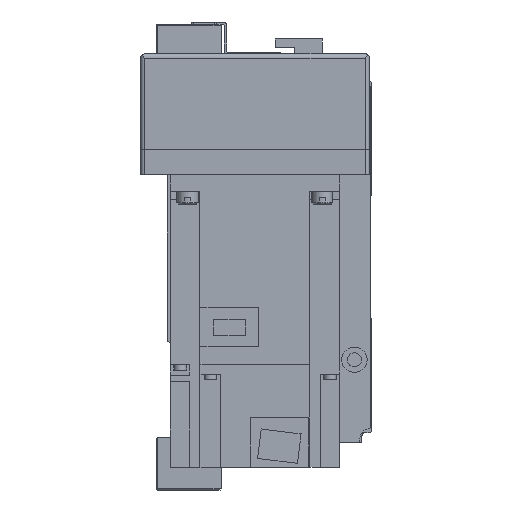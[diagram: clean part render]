
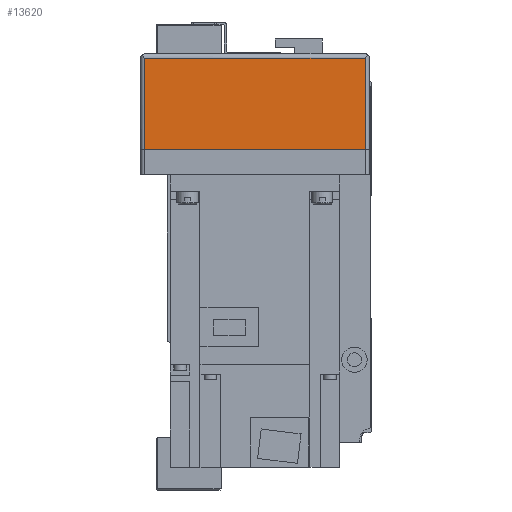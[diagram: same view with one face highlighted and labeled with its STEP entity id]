
A CAD part, left-side view. The second image highlights one B-rep face of the part: STEP entity #13620.
In plain terms, the highlighted planar face has unit normal (-1, 0, 0).
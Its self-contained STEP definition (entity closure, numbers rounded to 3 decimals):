
#2458=ORIENTED_EDGE('',*,*,#5668,.T.);
#2459=ORIENTED_EDGE('',*,*,#5596,.T.);
#2460=ORIENTED_EDGE('',*,*,#5669,.F.);
#2461=ORIENTED_EDGE('',*,*,#5608,.F.);
#5596=EDGE_CURVE('',#7350,#7353,#8782,.T.);
#5608=EDGE_CURVE('',#7360,#7362,#8787,.T.);
#5668=EDGE_CURVE('',#7360,#7350,#8829,.T.);
#5669=EDGE_CURVE('',#7362,#7353,#8830,.T.);
#7350=VERTEX_POINT('',#21263);
#7353=VERTEX_POINT('',#21269);
#7360=VERTEX_POINT('',#21292);
#7362=VERTEX_POINT('',#21295);
#8782=LINE('',#21270,#10095);
#8787=LINE('',#21294,#10100);
#8829=LINE('',#21418,#10142);
#8830=LINE('',#21419,#10143);
#10095=VECTOR('',#16999,1000.);
#10100=VECTOR('',#17026,1000.);
#10142=VECTOR('',#17146,1000.);
#10143=VECTOR('',#17147,1000.);
#11251=EDGE_LOOP('',(#2458,#2459,#2460,#2461));
#12230=FACE_BOUND('',#11251,.T.);
#13041=PLANE('',#14629);
#13620=ADVANCED_FACE('',(#12230),#13041,.T.);
#14629=AXIS2_PLACEMENT_3D('',#21417,#17144,#17145);
#16999=DIRECTION('',(0.,0.,1.));
#17026=DIRECTION('',(0.,0.,1.));
#17144=DIRECTION('',(-1.,0.,0.));
#17145=DIRECTION('',(0.,0.,1.));
#17146=DIRECTION('',(0.,-1.,0.));
#17147=DIRECTION('',(0.,-1.,0.));
#21263=CARTESIAN_POINT('',(-230.,-52.,-55.));
#21269=CARTESIAN_POINT('',(-230.,-52.,-12.));
#21270=CARTESIAN_POINT('',(-230.,-52.,-57.));
#21292=CARTESIAN_POINT('',(-230.,52.,-55.));
#21294=CARTESIAN_POINT('',(-230.,52.,-57.));
#21295=CARTESIAN_POINT('',(-230.,52.,-12.));
#21417=CARTESIAN_POINT('',(-230.,52.,-57.));
#21418=CARTESIAN_POINT('',(-230.,54.,-55.));
#21419=CARTESIAN_POINT('',(-230.,52.,-12.));
